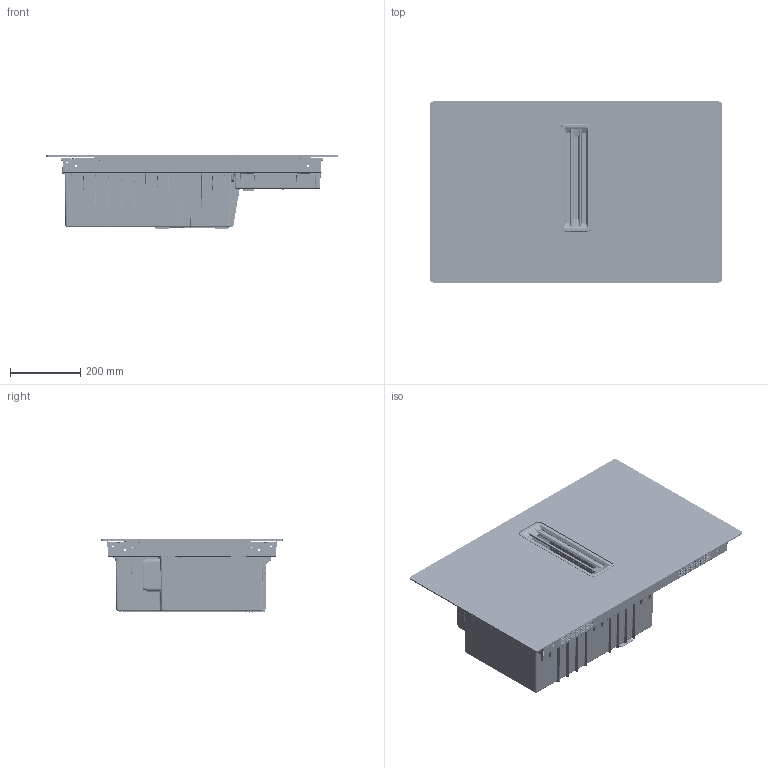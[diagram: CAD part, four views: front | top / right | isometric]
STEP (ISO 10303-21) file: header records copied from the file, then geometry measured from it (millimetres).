
FILE_DESCRIPTION(('CATIA V5 STEP'),'2;1');
FILE_NAME('C:\Users\BayerSte\tc14tcicv5_localdir\catuii\ComboLite_20240229_M0490530_AllCATPart.stp','2024-02-29T14:22:25+00:00',('none'),('Electrolux'),'CATIA Version 5-6 Release 2016 SP5','CATIA V5 STEP AP203','none');
FILE_SCHEMA(('CONFIG_CONTROL_DESIGN'));
Products named in the file (1): ComboLite_20240229_M0490530_AllCATPart
Bounding box: 830 x 515 x 208.7 mm (x, y, z)
Volume: 3915121.3 mm3; surface area: 3245474.1 mm2
Topology: 51 solids, 51 shells, 18343 faces, 47457 edges, 28650 vertices
Faces by surface type: cylinder 5908, plane 5680, bspline 3866, torus 1658, cone 633, sphere 354, extrusion 198, revolution 46
Entity records: 763777 total; most frequent: CARTESIAN_POINT 368601, ORIENTED_EDGE 93856, DIRECTION 58397, EDGE_CURVE 46928, VERTEX_POINT 28650, AXIS2_PLACEMENT_3D 23819, VECTOR 21398, LINE 21200
